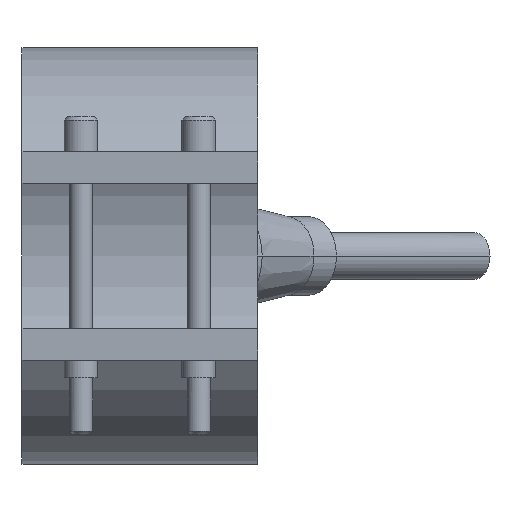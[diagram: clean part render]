
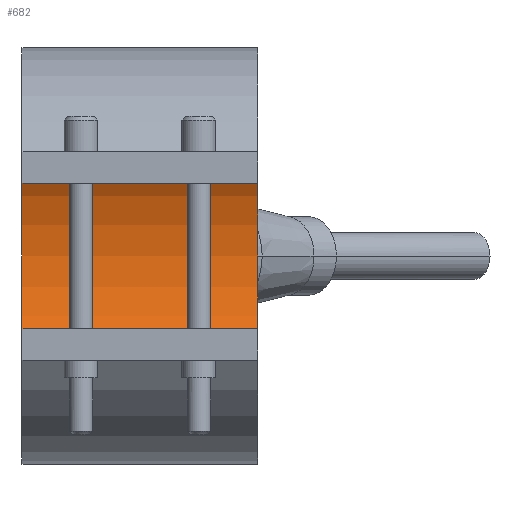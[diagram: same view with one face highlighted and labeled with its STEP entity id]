
A CAD part, front view. The second image highlights one B-rep face of the part: STEP entity #682.
In plain terms, the highlighted cylindrical face has radius 22.5 mm (diameter 45 mm), a partial arc.
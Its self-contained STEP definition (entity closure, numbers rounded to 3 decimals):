
#352=CARTESIAN_POINT('Vertex',(15.,0.,22.5)) ;
#357=CARTESIAN_POINT('Axis2P3D Location',(15.,0.,0.)) ;
#361=CARTESIAN_POINT('Vertex',(15.,0.,-22.5)) ;
#468=CARTESIAN_POINT('Vertex',(-15.,0.,-22.5)) ;
#471=CARTESIAN_POINT('Axis2P3D Location',(-15.,0.,0.)) ;
#475=CARTESIAN_POINT('Vertex',(-15.,0.,22.5)) ;
#654=CARTESIAN_POINT('Line Origine',(15.,0.,22.5)) ;
#666=CARTESIAN_POINT('Axis2P3D Location',(15.,0.,0.)) ;
#671=CARTESIAN_POINT('Line Origine',(15.,0.,-22.5)) ;
#358=DIRECTION('Axis2P3D Direction',(1.,0.,0.)) ;
#472=DIRECTION('Axis2P3D Direction',(1.,0.,0.)) ;
#655=DIRECTION('Vector Direction',(1.,0.,0.)) ;
#667=DIRECTION('Axis2P3D Direction',(1.,0.,-0.)) ;
#668=DIRECTION('Axis2P3D XDirection',(0.,0.,-1.)) ;
#672=DIRECTION('Vector Direction',(1.,0.,0.)) ;
#359=AXIS2_PLACEMENT_3D('Circle Axis2P3D',#357,#358,$) ;
#473=AXIS2_PLACEMENT_3D('Circle Axis2P3D',#471,#472,$) ;
#669=AXIS2_PLACEMENT_3D('Cylinder Axis2P3D',#666,#667,#668) ;
#677=ORIENTED_EDGE('',*,*,#363,.T.) ;
#678=ORIENTED_EDGE('',*,*,#658,.T.) ;
#679=ORIENTED_EDGE('',*,*,#477,.F.) ;
#680=ORIENTED_EDGE('',*,*,#675,.T.) ;
#656=VECTOR('Line Direction',#655,1.) ;
#673=VECTOR('Line Direction',#672,1.) ;
#682=ADVANCED_FACE('29045030',(#681),#670,.F.) ;
#360=CIRCLE('generated circle',#359,22.5) ;
#474=CIRCLE('generated circle',#473,22.5) ;
#670=CYLINDRICAL_SURFACE('generated cylinder',#669,22.5) ;
#363=EDGE_CURVE('',#362,#353,#360,.T.) ;
#477=EDGE_CURVE('',#469,#476,#474,.T.) ;
#658=EDGE_CURVE('',#353,#476,#657,.F.) ;
#675=EDGE_CURVE('',#469,#362,#674,.T.) ;
#676=EDGE_LOOP('',(#677,#678,#679,#680)) ;
#681=FACE_OUTER_BOUND('',#676,.T.) ;
#657=LINE('Line',#654,#656) ;
#674=LINE('Line',#671,#673) ;
#353=VERTEX_POINT('',#352) ;
#362=VERTEX_POINT('',#361) ;
#469=VERTEX_POINT('',#468) ;
#476=VERTEX_POINT('',#475) ;
